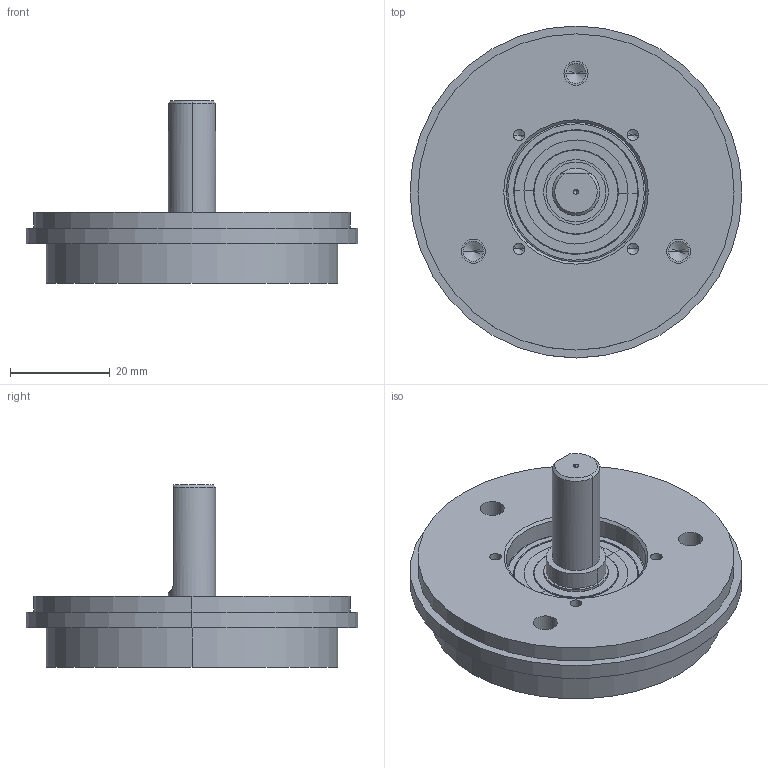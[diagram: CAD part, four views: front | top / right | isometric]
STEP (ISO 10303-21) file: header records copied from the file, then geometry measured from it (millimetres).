
FILE_DESCRIPTION (( 'STEP AP214' ), '1' );
FILE_NAME ('Drawing-MCD-A7S0-Q5A-N.STEP', '2016-01-28T12:15:38', ( '' ), ( '' ), 'SwSTEP 2.0', 'SolidWorks 2015', '' );
FILE_SCHEMA (( 'AUTOMOTIVE_DESIGN' ));
Length unit declared in the file: millimetre
Products named in the file (1): Drawing-MCD-A7S0-Q5A-N
Bounding box: 66.67 x 66.67 x 36.64 mm (x, y, z)
Volume: 39706.8 mm3; surface area: 16881.8 mm2
Topology: 13 solids, 14 shells, 164 faces, 369 edges, 218 vertices
Faces by surface type: cylinder 65, cone 34, torus 26, plane 23, sphere 16
Entity records: 6149 total; most frequent: DIRECTION 843, CARTESIAN_POINT 708, ORIENTED_EDGE 622, AXIS2_PLACEMENT_3D 371, EDGE_CURVE 311, CIRCLE 206, VERTEX_POINT 194, EDGE_LOOP 191
